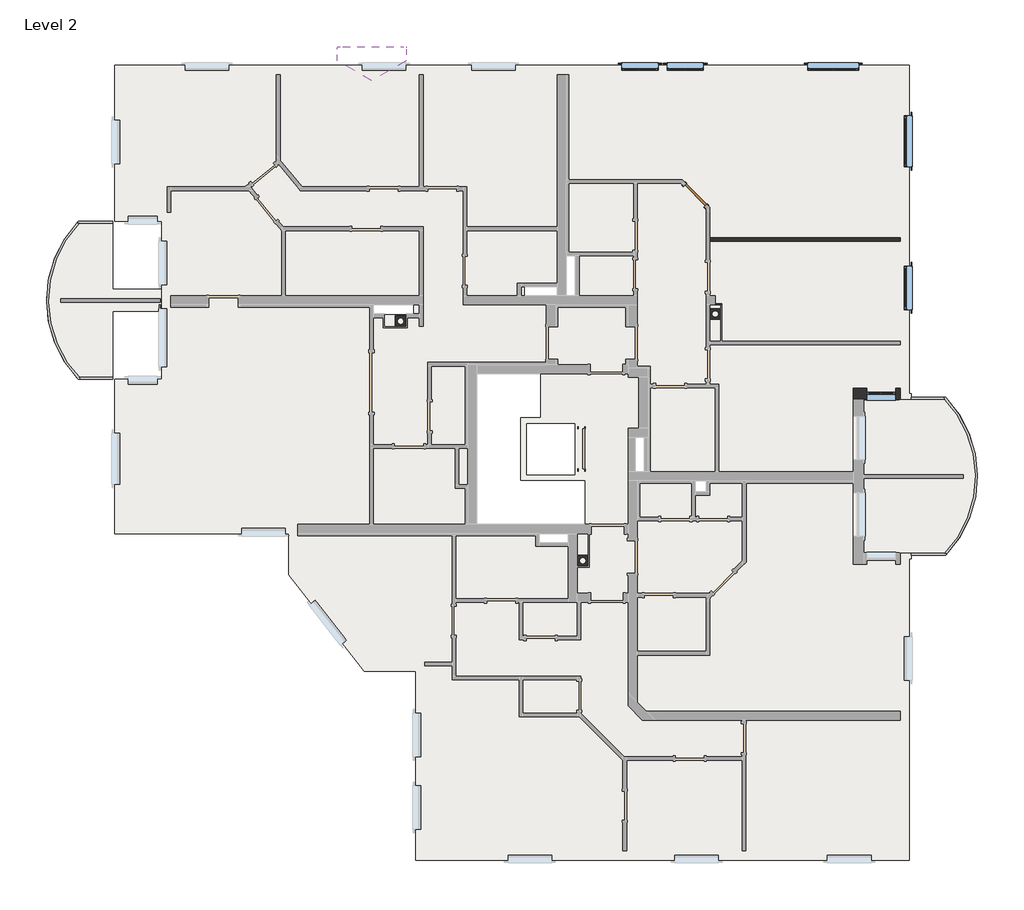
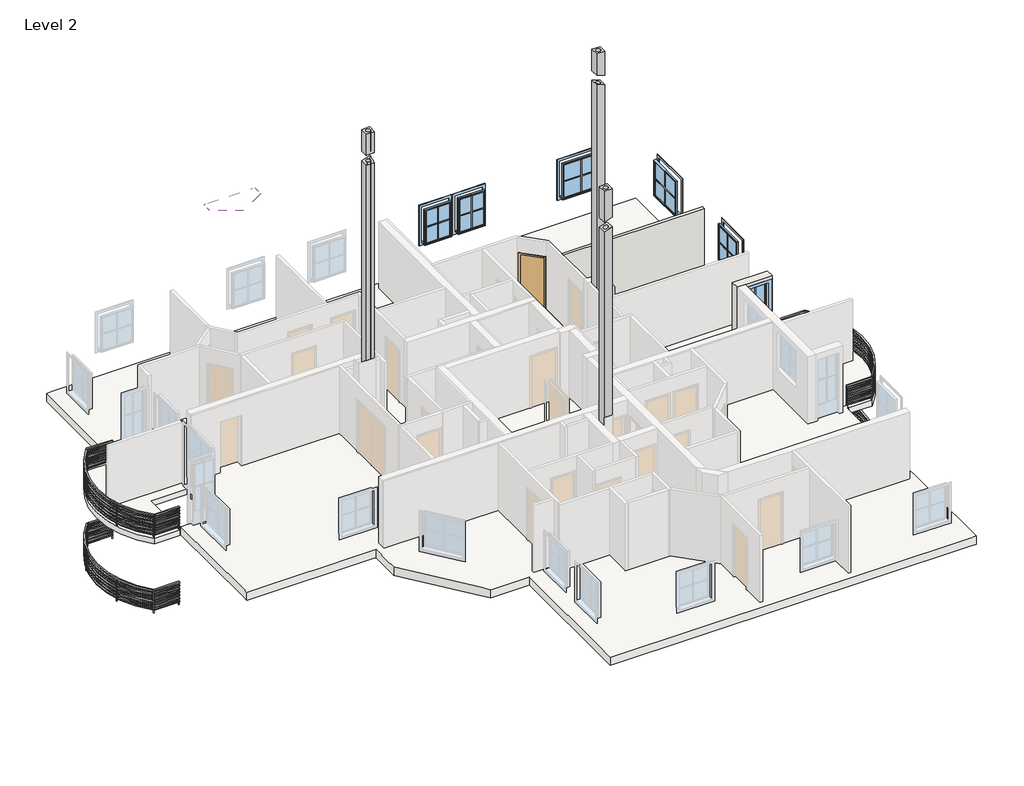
# One storey, part 4 of 4: 6 windows, 4 railings, 3 columns, 3 slabs, 3 walls, 1 door, 1 roof.
"""IFC4 building model written with IfcOpenShell, lengths in millimetres."""

from ifc_helpers import new_model, si_unit, point, frame, frame_2d, origin, place, context, project, spatial, polyline, circle_curve, ellipse_curve, trimmed, segment, composite_curve, outline, extrude, faceted_brep, transform, mapped, element, save
from ifc_brep_helpers import plane_surface, cylinder_surface, revolved_surface, advanced_brep
from components import standard_door_sd_800x2000_80f4ff25, railing_900mm_pipe_d0f322aa, railing_900mm_pipe_71d0ca38, railing_900mm_pipe_00438126, railing_900mm_pipe_7ffbcec4, standard_window_with_mullions_d3525f46, standard_window_with_mullions_80486b60, standard_window_with_mullions_12e20a72, window_2_4fa60929

model = new_model("IFC4")

# Units and contexts
model_context = context("Model", 3, world=origin())
ifc_project = project(units=[si_unit("LENGTHUNIT", "METRE", prefix="MILLI")], contexts=[model_context])

# Site, building, storey
site = spatial("IfcSite", under=ifc_project)
building = spatial("IfcBuilding", under=site)
storey = spatial("IfcBuildingStorey", under=building, Name="Level 2", Elevation=5900.0)

# Columns
placement = place(None, origin())
element("IfcColumn", 1, ObjectType="AT Kamin : 300/300/160", at=placement, inside=storey, context=model_context, shape_type="AdvancedBrep", body=[
    advanced_brep(
    [(-4557.1962165, 3917.6290541, 17750.0), (-4857.1962165, 3917.6290541, 17750.0), (-4857.1962165, 3617.6290541, 17750.0), (-4557.1962165, 3617.6290541, 17750.0), (-4787.1962165, 3767.6290541, 17750.0), (-4627.1962165, 3767.6290541, 17750.0), (-4557.1962165, 3917.6290541, 17000.1974097), (-4857.1962165, 3917.6290541, 16902.7215009), (-4857.1962165, 3617.6290541, 16902.7215009), (-4841.2600407, 3617.6290541, 16907.8994783), (-4557.1962165, 3617.6290541, 16907.8994783), (-4557.1962165, 3901.6928783, 17000.1974097), (-4787.1962165, 3767.6290541, 16925.4658796), (-4643.223579, 3815.6655158, 16972.2454252), (-4627.1962165, 3767.6290541, 16956.6374327), (-4755.2326782, 3703.6564166, 16935.8514628)],
    [
        (0, 1),
        (1, 2),
        (2, 3),
        (3, 0),
        (4, 5, circle_curve(frame((-4707.1962165, 3767.6290541, 17750.0), z_axis=(0.0, 0.0, -1.0), x_axis=(1.0, 0.0, 0.0)), 80.0)),
        (5, 4, circle_curve(frame((-4707.1962165, 3767.6290541, 17750.0), z_axis=(0.0, 0.0, -1.0), x_axis=(1.0, 0.0, 0.0)), 80.0)),
        (0, 6),
        (6, 7),
        (7, 1),
        (7, 8),
        (8, 2),
        (8, 9),
        (9, 10),
        (10, 3),
        (10, 11),
        (11, 6),
        (4, 12),
        (12, 13, ellipse_curve(frame((-4707.1962165, 3767.6290541, 16951.4594553), z_axis=(0.30901699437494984, 0.0, -0.9510565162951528), x_axis=(-0.9510565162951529, 0.0, -0.30901699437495)), 84.1169779, 80.0)),
        (13, 14, ellipse_curve(frame((-4707.1962165, 3767.6290541, 16956.6374327), z_axis=(0.0, 0.30901699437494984, -0.9510565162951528), x_axis=(0.0, -0.9510565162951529, -0.30901699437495)), 84.1169779, 80.0)),
        (14, 5),
        (14, 15, ellipse_curve(frame((-4707.1962165, 3767.6290541, 16956.6374327), z_axis=(0.0, 0.30901699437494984, -0.9510565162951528), x_axis=(0.0, -0.9510565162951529, -0.30901699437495)), 84.1169779, 80.0)),
        (15, 12, ellipse_curve(frame((-4707.1962165, 3767.6290541, 16951.4594553), z_axis=(0.30901699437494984, 0.0, -0.9510565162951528), x_axis=(-0.9510565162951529, 0.0, -0.30901699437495)), 84.1169779, 80.0)),
        (11, 13),
        (15, 9),
    ],
    [
        plane_surface(frame((-4857.1962165, 3917.6290541, 17750.0), z_axis=(0.0, 0.0, 1.0), x_axis=(-1.0, 0.0, 0.0))),
        plane_surface(frame((-4557.1962165, 3917.6290541, 17750.0), z_axis=(0.0, 1.0, 0.0), x_axis=(0.0, 0.0, -1.0))),
        plane_surface(frame((-4857.1962165, 3917.6290541, 17750.0), z_axis=(-1.0, 0.0, 0.0), x_axis=(0.0, 0.0, -1.0))),
        plane_surface(frame((-4857.1962165, 3617.6290541, 17750.0), z_axis=(0.0, -1.0, 0.0), x_axis=(0.0, 0.0, -1.0))),
        plane_surface(frame((-4557.1962165, 3617.6290541, 17750.0), z_axis=(1.0, 0.0, 0.0), x_axis=(0.0, 0.0, -1.0))),
        revolved_surface(polyline([(-4627.1962165, 3767.6290541, 16925.4658796), (-4627.1962165, 3767.6290541, 17750.0)]), (-4707.1962165, 3767.6290541, 5900.0), (0.0, 0.0, -1.0)),
        plane_surface(frame((-8021.8499172, 8372.0175181, 15874.4631818), z_axis=(0.30901699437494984, 0.0, -0.9510565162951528), x_axis=(0.0, -1.0, 0.0))),
        plane_surface(frame((-8021.8499172, 437.0391776, 15874.4631818), z_axis=(0.0, 0.30901699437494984, -0.9510565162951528), x_axis=(1.0, 0.0, 0.0))),
    ],
    [
        (0, [[1, 2, 3, 4], [5, 6]]),
        (1, [[-1, 7, 8, 9]]),
        (2, [[-2, -9, 10, 11]]),
        (3, [[-3, -11, 12, 13, 14]]),
        (4, [[-4, -14, 15, 16, -7]]),
        (5, [[-5, 17, 18, 19, 20]]),
        (5, [[-6, -20, 21, 22, -17]]),
        (6, [[23, -18, -22, 24, -12, -10, -8, -16]]),
        (7, [[-23, -15, -13, -24, -21, -19]]),
    ],
),
    advanced_brep(
    [(-4557.1962165, 3917.6290541, 5900.0), (-4557.1962165, 3617.6290541, 5900.0), (-4857.1962165, 3617.6290541, 5900.0), (-4857.1962165, 3917.6290541, 5900.0), (-4787.1962165, 3767.6290541, 5900.0), (-4627.1962165, 3767.6290541, 5900.0), (-4643.223579, 3815.6655158, 16593.7190245), (-4557.1962165, 3901.6928783, 16621.671009), (-4557.1962165, 3917.6290541, 16621.671009), (-4857.1962165, 3917.6290541, 16524.1951001), (-4857.1962165, 3617.6290541, 16524.1951001), (-4841.2600407, 3617.6290541, 16529.3730775), (-4755.2326782, 3703.6564166, 16557.325062), (-4787.1962165, 3767.6290541, 16546.9394789), (-4627.1962165, 3767.6290541, 16578.111032), (-4557.1962165, 3617.6290541, 16529.3730775)],
    [
        (0, 1),
        (1, 2),
        (2, 3),
        (3, 0),
        (4, 5, circle_curve(frame((-4707.1962165, 3767.6290541, 5900.0), z_axis=(0.0, 0.0, 1.0), x_axis=(1.0, 0.0, 0.0)), 80.0)),
        (5, 4, circle_curve(frame((-4707.1962165, 3767.6290541, 5900.0), z_axis=(0.0, 0.0, 1.0), x_axis=(1.0, 0.0, 0.0)), 80.0)),
        (6, 7),
        (7, 8),
        (8, 9),
        (9, 10),
        (10, 11),
        (11, 12),
        (12, 13, ellipse_curve(frame((-4707.1962165, 3767.6290541, 16572.9330546), z_axis=(0.30901699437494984, 0.0, -0.9510565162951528), x_axis=(-0.9510565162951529, 0.0, -0.30901699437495)), 84.1169779, 80.0)),
        (13, 6, ellipse_curve(frame((-4707.1962165, 3767.6290541, 16572.9330546), z_axis=(0.30901699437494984, 0.0, -0.9510565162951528), x_axis=(-0.9510565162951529, 0.0, -0.30901699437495)), 84.1169779, 80.0)),
        (6, 14, ellipse_curve(frame((-4707.1962165, 3767.6290541, 16578.111032), z_axis=(0.0, 0.30901699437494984, -0.9510565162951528), x_axis=(0.0, -0.9510565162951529, -0.30901699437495)), 84.1169779, 80.0)),
        (14, 12, ellipse_curve(frame((-4707.1962165, 3767.6290541, 16578.111032), z_axis=(0.0, 0.30901699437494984, -0.9510565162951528), x_axis=(0.0, -0.9510565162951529, -0.30901699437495)), 84.1169779, 80.0)),
        (11, 15),
        (15, 7),
        (3, 9),
        (8, 0),
        (2, 10),
        (1, 15),
        (5, 14),
        (13, 4),
    ],
    [
        plane_surface(frame((-4857.1962165, 3917.6290541, 5900.0), z_axis=(0.0, 0.0, -1.0), x_axis=(1.0, 0.0, 0.0))),
        plane_surface(frame((-8021.8499172, 8372.0175181, 15495.936781), z_axis=(-0.30901699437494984, 0.0, 0.9510565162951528), x_axis=(0.0, -1.0, 0.0))),
        plane_surface(frame((-8021.8499172, 437.0391776, 15495.936781), z_axis=(0.0, -0.30901699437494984, 0.9510565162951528), x_axis=(1.0, 0.0, 0.0))),
        plane_surface(frame((-4557.1962165, 3917.6290541, 17750.0), z_axis=(0.0, 1.0, 0.0), x_axis=(0.0, 0.0, -1.0))),
        plane_surface(frame((-4857.1962165, 3917.6290541, 17750.0), z_axis=(-1.0, 0.0, 0.0), x_axis=(0.0, 0.0, -1.0))),
        plane_surface(frame((-4857.1962165, 3617.6290541, 17750.0), z_axis=(0.0, -1.0, 0.0), x_axis=(0.0, 0.0, -1.0))),
        plane_surface(frame((-4557.1962165, 3617.6290541, 17750.0), z_axis=(1.0, 0.0, 0.0), x_axis=(0.0, 0.0, -1.0))),
        revolved_surface(polyline([(-4627.1962165, 3767.6290541, 5900.0), (-4627.1962165, 3767.6290541, 16604.10460768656)]), (-4707.1962165, 3767.6290541, 5900.0), (0.0, 0.0, -1.0)),
    ],
    [
        (0, [[1, 2, 3, 4], [5, 6]]),
        (1, [[7, 8, 9, 10, 11, 12, 13, 14]]),
        (2, [[-7, 15, 16, -12, 17, 18]]),
        (3, [[-4, 19, -9, 20]]),
        (4, [[-3, 21, -10, -19]]),
        (5, [[-2, 22, -17, -11, -21]]),
        (6, [[-1, -20, -8, -18, -22]]),
        (7, [[-6, 23, -15, -14, 24]]),
        (7, [[-5, -24, -13, -16, -23]]),
    ],
),
])
element("IfcColumn", 2, ObjectType="AT Kamin : 300/300/160", at=placement, inside=storey, context=model_context, shape_type="AdvancedBrep", body=[
    advanced_brep(
    [(463.5618728, -2682.3709459, 17750.0), (163.5618728, -2682.3709459, 17750.0), (163.5618728, -2982.3709459, 17750.0), (463.5618728, -2982.3709459, 17750.0), (233.5618728, -2832.3709459, 17750.0), (393.5618728, -2832.3709459, 17750.0), (463.5618728, -2682.3709459, 16623.4506996), (163.5618728, -2682.3709459, 16525.9747908), (163.5618728, -2982.3709459, 16525.9747908), (463.5618728, -2982.3709459, 16623.4506996), (233.5618728, -2832.3709459, 16548.7191695), (393.5618728, -2832.3709459, 16600.7063209)],
    [
        (0, 1),
        (1, 2),
        (2, 3),
        (3, 0),
        (4, 5, circle_curve(frame((313.5618728, -2832.3709459, 17750.0), z_axis=(0.0, 0.0, -1.0), x_axis=(1.0, 0.0, 0.0)), 80.0)),
        (5, 4, circle_curve(frame((313.5618728, -2832.3709459, 17750.0), z_axis=(0.0, 0.0, -1.0), x_axis=(1.0, 0.0, 0.0)), 80.0)),
        (0, 6),
        (6, 7),
        (7, 1),
        (7, 8),
        (8, 2),
        (8, 9),
        (9, 3),
        (9, 6),
        (4, 10),
        (10, 11, ellipse_curve(frame((313.5618728, -2832.3709459, 16574.7127452), z_axis=(0.30901699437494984, 0.0, -0.9510565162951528), x_axis=(-0.9510565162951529, 0.0, -0.30901699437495)), 84.1169779, 80.0)),
        (11, 5),
        (11, 10, ellipse_curve(frame((313.5618728, -2832.3709459, 16574.7127452), z_axis=(0.30901699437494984, 0.0, -0.9510565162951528), x_axis=(-0.9510565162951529, 0.0, -0.30901699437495)), 84.1169779, 80.0)),
    ],
    [
        plane_surface(frame((163.5618728, -2682.3709459, 17750.0), z_axis=(0.0, 0.0, 1.0), x_axis=(-1.0, 0.0, 0.0))),
        plane_surface(frame((463.5618728, -2682.3709459, 17750.0), z_axis=(0.0, 1.0, 0.0), x_axis=(0.0, 0.0, -1.0))),
        plane_surface(frame((163.5618728, -2682.3709459, 17750.0), z_axis=(-1.0, 0.0, 0.0), x_axis=(0.0, 0.0, -1.0))),
        plane_surface(frame((163.5618728, -2982.3709459, 17750.0), z_axis=(0.0, -1.0, 0.0), x_axis=(0.0, 0.0, -1.0))),
        plane_surface(frame((463.5618728, -2982.3709459, 17750.0), z_axis=(1.0, 0.0, 0.0), x_axis=(0.0, 0.0, -1.0))),
        revolved_surface(polyline([(393.5618728, -2832.3709459, 16548.7191695), (393.5618728, -2832.3709459, 17750.0)]), (313.5618728, -2832.3709459, 5900.0), (0.0, 0.0, -1.0)),
        plane_surface(frame((-1841.5846805, 437.0391776, 15874.4631818), z_axis=(0.30901699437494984, 0.0, -0.9510565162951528), x_axis=(0.0, -1.0, 0.0))),
    ],
    [
        (0, [[1, 2, 3, 4], [5, 6]]),
        (1, [[-1, 7, 8, 9]]),
        (2, [[-2, -9, 10, 11]]),
        (3, [[-3, -11, 12, 13]]),
        (4, [[-4, -13, 14, -7]]),
        (5, [[-5, 15, 16, 17]]),
        (5, [[-6, -17, 18, -15]]),
        (6, [[-8, -14, -12, -10], [-16, -18]]),
    ],
),
    advanced_brep(
    [(463.5618728, -2682.3709459, 5900.0), (463.5618728, -2982.3709459, 5900.0), (163.5618728, -2982.3709459, 5900.0), (163.5618728, -2682.3709459, 5900.0), (233.5618728, -2832.3709459, 5900.0), (393.5618728, -2832.3709459, 5900.0), (463.5618728, -2682.3709459, 16244.9242989), (163.5618728, -2682.3709459, 16147.44839), (163.5618728, -2982.3709459, 16147.44839), (463.5618728, -2982.3709459, 16244.9242989), (233.5618728, -2832.3709459, 16170.1927688), (393.5618728, -2832.3709459, 16222.1799202)],
    [
        (0, 1),
        (1, 2),
        (2, 3),
        (3, 0),
        (4, 5, circle_curve(frame((313.5618728, -2832.3709459, 5900.0), z_axis=(0.0, 0.0, 1.0), x_axis=(1.0, 0.0, 0.0)), 80.0)),
        (5, 4, circle_curve(frame((313.5618728, -2832.3709459, 5900.0), z_axis=(0.0, 0.0, 1.0), x_axis=(1.0, 0.0, 0.0)), 80.0)),
        (6, 7),
        (7, 8),
        (8, 9),
        (9, 6),
        (10, 11, ellipse_curve(frame((313.5618728, -2832.3709459, 16196.1863445), z_axis=(0.30901699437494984, 0.0, -0.9510565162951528), x_axis=(-0.9510565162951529, 0.0, -0.30901699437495)), 84.1169779, 80.0)),
        (11, 10, ellipse_curve(frame((313.5618728, -2832.3709459, 16196.1863445), z_axis=(0.30901699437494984, 0.0, -0.9510565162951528), x_axis=(-0.9510565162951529, 0.0, -0.30901699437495)), 84.1169779, 80.0)),
        (3, 7),
        (6, 0),
        (2, 8),
        (1, 9),
        (5, 11),
        (10, 4),
    ],
    [
        plane_surface(frame((163.5618728, -2682.3709459, 5900.0), z_axis=(0.0, 0.0, -1.0), x_axis=(1.0, 0.0, 0.0))),
        plane_surface(frame((-1841.5846805, 437.0391776, 15495.936781), z_axis=(-0.30901699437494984, 0.0, 0.9510565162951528), x_axis=(0.0, -1.0, 0.0))),
        plane_surface(frame((463.5618728, -2682.3709459, 17750.0), z_axis=(0.0, 1.0, 0.0), x_axis=(0.0, 0.0, -1.0))),
        plane_surface(frame((163.5618728, -2682.3709459, 17750.0), z_axis=(-1.0, 0.0, 0.0), x_axis=(0.0, 0.0, -1.0))),
        plane_surface(frame((163.5618728, -2982.3709459, 17750.0), z_axis=(0.0, -1.0, 0.0), x_axis=(0.0, 0.0, -1.0))),
        plane_surface(frame((463.5618728, -2982.3709459, 17750.0), z_axis=(1.0, 0.0, 0.0), x_axis=(0.0, 0.0, -1.0))),
        revolved_surface(polyline([(393.5618728, -2832.3709459, 5900.0), (393.5618728, -2832.3709459, 16222.1799202)]), (313.5618728, -2832.3709459, 5900.0), (0.0, 0.0, -1.0)),
    ],
    [
        (0, [[1, 2, 3, 4], [5, 6]]),
        (1, [[7, 8, 9, 10], [11, 12]]),
        (2, [[-4, 13, -7, 14]]),
        (3, [[-3, 15, -8, -13]]),
        (4, [[-2, 16, -9, -15]]),
        (5, [[-1, -14, -10, -16]]),
        (6, [[-6, 17, -11, 18]]),
        (6, [[-5, -18, -12, -17]]),
    ],
),
])
element("IfcColumn", 3, ObjectType="AT Kamin : 300/300/160", at=placement, inside=storey, context=model_context, shape_type="AdvancedBrep", body=[
    advanced_brep(
    [(4112.8037835, 4116.2076978, 17750.0), (3812.8037835, 4116.2076978, 17750.0), (3812.8037835, 3816.2076978, 17750.0), (4112.8037835, 3816.2076978, 17750.0), (3882.8037835, 3966.2076978, 17750.0), (4042.8037835, 3966.2076978, 17750.0), (4112.8037835, 4116.2076978, 16807.8848523), (3812.8037835, 4116.2076978, 16905.3607612), (3812.8037835, 3816.2076978, 16905.3607612), (4112.8037835, 3816.2076978, 16807.8848523), (3882.8037835, 3966.2076978, 16882.6163825), (4042.8037835, 3966.2076978, 16830.6292311)],
    [
        (0, 1),
        (1, 2),
        (2, 3),
        (3, 0),
        (4, 5, circle_curve(frame((3962.8037835, 3966.2076978, 17750.0), z_axis=(0.0, 0.0, -1.0), x_axis=(1.0, 0.0, 0.0)), 80.0)),
        (5, 4, circle_curve(frame((3962.8037835, 3966.2076978, 17750.0), z_axis=(0.0, 0.0, -1.0), x_axis=(1.0, 0.0, 0.0)), 80.0)),
        (0, 6),
        (6, 7),
        (7, 1),
        (7, 8),
        (8, 2),
        (8, 9),
        (9, 3),
        (9, 6),
        (4, 10),
        (10, 11, ellipse_curve(frame((3962.8037835, 3966.2076978, 16856.6228068), z_axis=(-0.30901699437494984, 0.0, -0.9510565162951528), x_axis=(0.9510565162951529, 0.0, -0.30901699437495)), 84.1169779, 80.0)),
        (11, 5),
        (11, 10, ellipse_curve(frame((3962.8037835, 3966.2076978, 16856.6228068), z_axis=(-0.30901699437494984, 0.0, -0.9510565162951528), x_axis=(0.9510565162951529, 0.0, -0.30901699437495)), 84.1169779, 80.0)),
    ],
    [
        plane_surface(frame((3812.8037835, 4116.2076978, 17750.0), z_axis=(0.0, 0.0, 1.0), x_axis=(-1.0, 0.0, 0.0))),
        plane_surface(frame((4112.8037835, 4116.2076978, 17750.0), z_axis=(0.0, 1.0, 0.0), x_axis=(0.0, 0.0, -1.0))),
        plane_surface(frame((3812.8037835, 4116.2076978, 17750.0), z_axis=(-1.0, 0.0, 0.0), x_axis=(0.0, 0.0, -1.0))),
        plane_surface(frame((3812.8037835, 3816.2076978, 17750.0), z_axis=(0.0, -1.0, 0.0), x_axis=(0.0, 0.0, -1.0))),
        plane_surface(frame((4112.8037835, 3816.2076978, 17750.0), z_axis=(1.0, 0.0, 0.0), x_axis=(0.0, 0.0, -1.0))),
        revolved_surface(polyline([(4042.8037835, 3966.2076978, 16830.6292311), (4042.8037835, 3966.2076978, 17750.0)]), (3962.8037835, 3966.2076978, 5900.0), (0.0, 0.0, -1.0)),
        plane_surface(frame((6985.5802922, -11532.3709459, 15874.4631818), z_axis=(-0.30901699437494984, 0.0, -0.9510565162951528), x_axis=(0.0, 1.0, 0.0))),
    ],
    [
        (0, [[1, 2, 3, 4], [5, 6]]),
        (1, [[-1, 7, 8, 9]]),
        (2, [[-2, -9, 10, 11]]),
        (3, [[-3, -11, 12, 13]]),
        (4, [[-4, -13, 14, -7]]),
        (5, [[-5, 15, 16, 17]]),
        (5, [[-6, -17, 18, -15]]),
        (6, [[-8, -14, -12, -10], [-16, -18]]),
    ],
),
    advanced_brep(
    [(4112.8037835, 4116.2076978, 5900.0), (4112.8037835, 3816.2076978, 5900.0), (3812.8037835, 3816.2076978, 5900.0), (3812.8037835, 4116.2076978, 5900.0), (3882.8037835, 3966.2076978, 5900.0), (4042.8037835, 3966.2076978, 5900.0), (4112.8037835, 4116.2076978, 16429.3584516), (3812.8037835, 4116.2076978, 16526.8343605), (3812.8037835, 3816.2076978, 16526.8343605), (4112.8037835, 3816.2076978, 16429.3584516), (3882.8037835, 3966.2076978, 16504.0899817), (4042.8037835, 3966.2076978, 16452.1028303)],
    [
        (0, 1),
        (1, 2),
        (2, 3),
        (3, 0),
        (4, 5, circle_curve(frame((3962.8037835, 3966.2076978, 5900.0), z_axis=(0.0, 0.0, 1.0), x_axis=(1.0, 0.0, 0.0)), 80.0)),
        (5, 4, circle_curve(frame((3962.8037835, 3966.2076978, 5900.0), z_axis=(0.0, 0.0, 1.0), x_axis=(1.0, 0.0, 0.0)), 80.0)),
        (6, 7),
        (7, 8),
        (8, 9),
        (9, 6),
        (10, 11, ellipse_curve(frame((3962.8037835, 3966.2076978, 16478.096406), z_axis=(-0.30901699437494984, 0.0, -0.9510565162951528), x_axis=(0.9510565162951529, 0.0, -0.30901699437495)), 84.1169779, 80.0)),
        (11, 10, ellipse_curve(frame((3962.8037835, 3966.2076978, 16478.096406), z_axis=(-0.30901699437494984, 0.0, -0.9510565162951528), x_axis=(0.9510565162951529, 0.0, -0.30901699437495)), 84.1169779, 80.0)),
        (3, 7),
        (6, 0),
        (2, 8),
        (1, 9),
        (5, 11),
        (10, 4),
    ],
    [
        plane_surface(frame((3812.8037835, 4116.2076978, 5900.0), z_axis=(0.0, 0.0, -1.0), x_axis=(1.0, 0.0, 0.0))),
        plane_surface(frame((6985.5802922, -11532.3709459, 15495.936781), z_axis=(0.30901699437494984, 0.0, 0.9510565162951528), x_axis=(0.0, 1.0, 0.0))),
        plane_surface(frame((4112.8037835, 4116.2076978, 17750.0), z_axis=(0.0, 1.0, 0.0), x_axis=(0.0, 0.0, -1.0))),
        plane_surface(frame((3812.8037835, 4116.2076978, 17750.0), z_axis=(-1.0, 0.0, 0.0), x_axis=(0.0, 0.0, -1.0))),
        plane_surface(frame((3812.8037835, 3816.2076978, 17750.0), z_axis=(0.0, -1.0, 0.0), x_axis=(0.0, 0.0, -1.0))),
        plane_surface(frame((4112.8037835, 3816.2076978, 17750.0), z_axis=(1.0, 0.0, 0.0), x_axis=(0.0, 0.0, -1.0))),
        revolved_surface(polyline([(4042.8037835, 3966.2076978, 5900.0), (4042.8037835, 3966.2076978, 16504.0899817)]), (3962.8037835, 3966.2076978, 5900.0), (0.0, 0.0, -1.0)),
    ],
    [
        (0, [[1, 2, 3, 4], [5, 6]]),
        (1, [[7, 8, 9, 10], [11, 12]]),
        (2, [[-4, 13, -7, 14]]),
        (3, [[-3, 15, -8, -13]]),
        (4, [[-2, 16, -9, -15]]),
        (5, [[-1, -14, -10, -16]]),
        (6, [[-6, 17, -11, 18]]),
        (6, [[-5, -18, -12, -17]]),
    ],
),
])

# Door
standard_door_sd_800x2000_shape = standard_door_sd_800x2000_80f4ff25(model_context)
element("IfcDoor", 4, ObjectType="Standard Door : SD 800x2000", at=placement, inside=storey, context=model_context, shape_type="MappedRepresentation", body=[
    mapped(standard_door_sd_800x2000_shape, transform((3410.8458954, 7240.2976203, 5900.0), x_axis=(0.7071067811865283, -0.7071067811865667, 0.0), y_axis=(0.7071067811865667, 0.7071067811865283, 0.0), z_axis=(0.0, 0.0, 1.0))),
])

# Railings
railing_900mm_pipe_shape = railing_900mm_pipe_d0f322aa(model_context)
element("IfcRailing", 5, ObjectType="900mm Pipe", at=placement, inside=storey, context=model_context, shape_type="MappedRepresentation", body=[
    mapped(railing_900mm_pipe_shape, transform((0.0, 0.0, 0.0), x_axis=(1.0, 0.0, 0.0), y_axis=(0.0, 1.0, 0.0), z_axis=(0.0, 0.0, 1.0))),
])
railing_900mm_pipe_2_shape = railing_900mm_pipe_71d0ca38(model_context)
element("IfcRailing", 6, ObjectType="900mm Pipe", at=placement, inside=storey, context=model_context, shape_type="MappedRepresentation", body=[
    mapped(railing_900mm_pipe_2_shape, transform((0.0, 0.0, 0.0), x_axis=(1.0, 0.0, 0.0), y_axis=(0.0, 1.0, 0.0), z_axis=(0.0, 0.0, 1.0))),
])
railing_900mm_pipe_3_shape = railing_900mm_pipe_00438126(model_context)
element("IfcRailing", 7, ObjectType="900mm Pipe", at=placement, inside=storey, context=model_context, shape_type="MappedRepresentation", body=[
    mapped(railing_900mm_pipe_3_shape, transform((0.0, 0.0, 0.0), x_axis=(1.0, 0.0, 0.0), y_axis=(0.0, 1.0, 0.0), z_axis=(0.0, 0.0, 1.0))),
])
railing_900mm_pipe_4_shape = railing_900mm_pipe_7ffbcec4(model_context)
element("IfcRailing", 8, ObjectType="900mm Pipe", at=placement, inside=storey, context=model_context, shape_type="MappedRepresentation", body=[
    mapped(railing_900mm_pipe_4_shape, transform((0.0, 0.0, 0.0), x_axis=(1.0, 0.0, 0.0), y_axis=(0.0, 1.0, 0.0), z_axis=(0.0, 0.0, 1.0))),
])

# Roof
element("IfcRoof", 9, ObjectType="Dormer", at=placement, inside=storey, context=model_context, shape_type="Brep", body=[
    faceted_brep([(-6450.2469102, 11337.6290541, 10859.1168825), (-6450.2469102, 11337.6290541, 11412.1320344), (-5500.2469102, 11337.6290541, 12362.1320344), (-4550.2469102, 11337.6290541, 11412.1320344), (-4550.2469102, 11337.6290541, 10859.1168825), (-4700.2469102, 11337.6290541, 10859.1168825), (-4700.2469102, 11337.6290541, 11350.0), (-5500.2469102, 11337.6290541, 12150.0), (-6300.2469102, 11337.6290541, 11350.0), (-6300.2469102, 11337.6290541, 10859.1168825), (-6450.2469102, 11267.6290541, 10859.1168825), (-6450.2469102, 10948.3456073, 11412.1320344), (-5500.2469102, 10399.8628515, 12362.1320344), (-4550.2469102, 10948.3456073, 11412.1320344), (-4550.2469102, 11267.6290541, 10859.1168825), (-4700.2469102, 11267.6290541, 10859.1168825), (-4700.2469102, 10984.217554, 11350.0), (-5500.2469102, 10522.3373387, 12150.0), (-6300.2469102, 10984.217554, 11350.0), (-6300.2469102, 11267.6290541, 10859.1168825)], [[[0, 1, 2, 3, 4, 5, 6, 7, 8, 9]], [[1, 0, 10, 11]], [[2, 1, 11, 12]], [[3, 2, 12, 13]], [[4, 3, 13, 14]], [[5, 4, 14, 15]], [[6, 5, 15, 16]], [[7, 6, 16, 17]], [[8, 7, 17, 18]], [[9, 8, 18, 19]], [[0, 9, 19, 10]], [[10, 19, 18, 17, 16, 15, 14, 13, 12, 11]]]),
])

# Slabs
element("IfcSlab", 10, ObjectType="Concrete", at=placement, inside=storey, context=model_context, shape_type="SweptSolid", body=[
    extrude(outline(composite_curve([segment(trimmed(circle_curve(frame_2d((-11337.1962165, 4342.6290541)), 3128.236703), [point((-13585.5822754, 2167.6290541))], [point((-13585.5822754, 6517.6290541))], False, "CARTESIAN"), True, "CONTINUOUS"), segment(polyline([(-13585.5822754, 6517.6290541), (-12637.1962165, 6517.6290541), (-12637.1962165, 4647.6290541), (-11287.1962165, 4647.6290541), (-11287.1962165, 4037.6290541), (-12637.1962165, 4037.6290541), (-12637.1962165, 2167.6290541), (-13585.5822754, 2167.6290541)]), True, "CONTINUOUS")], self_intersect=False)), frame((0.0, 0.0, 5580.0), z_axis=(0.0, 0.0, 1.0), x_axis=(1.0, 0.0, 0.0)), (0.0, 0.0, 1.0), 220.0),
])
element("IfcSlab", 11, ObjectType="Concrete", at=placement, inside=storey, context=model_context, shape_type="AdvancedBrep", body=[
    advanced_brep(
    [(10311.1898424, 1667.6290541, 5580.0), (10311.1898424, -2682.3709459, 5580.0), (9362.8037835, -2682.3709459, 5580.0), (8012.8037835, -2682.3709459, 5580.0), (8012.8037835, 1667.6290541, 5580.0), (9362.8037835, 1667.6290541, 5580.0), (10311.1898424, 1667.6290541, 5800.0), (9362.8037835, 1667.6290541, 5800.0), (8012.8037835, 1667.6290541, 5800.0), (8012.8037835, -2682.3709459, 5800.0), (9362.8037835, -2682.3709459, 5800.0), (10311.1898424, -2682.3709459, 5800.0)],
    [
        (0, 1, circle_curve(frame((8062.8037835, -507.3709459, 5580.0), z_axis=(0.0, 0.0, -1.0), x_axis=(1.0, 0.0, 0.0)), 3128.236703)),
        (1, 2),
        (2, 3),
        (3, 4),
        (4, 5),
        (5, 0),
        (6, 7),
        (7, 8),
        (8, 9),
        (9, 10),
        (10, 11),
        (11, 6, circle_curve(frame((8062.8037835, -507.3709459, 5800.0), z_axis=(0.0, 0.0, 1.0), x_axis=(1.0, 0.0, 0.0)), 3128.236703)),
        (0, 6),
        (11, 1),
        (9, 3),
        (8, 4),
    ],
    [
        plane_surface(frame((11191.0404865, -507.3709459, 5580.0), z_axis=(0.0, 0.0, -1.0), x_axis=(0.0, -1.0, 0.0))),
        plane_surface(frame((11191.0404865, -507.3709459, 5800.0), z_axis=(0.0, 0.0, 1.0), x_axis=(0.0, 1.0, 0.0))),
        cylinder_surface(frame((8062.8037835, -507.3709459, 5800.0), z_axis=(0.0, 0.0, -1.0), x_axis=(1.0, 0.0, 0.0)), 3128.236703),
        plane_surface(frame((10311.1898424, -2682.3709459, 5580.0), z_axis=(0.0, -1.0, 0.0), x_axis=(0.0, 0.0, 1.0))),
        plane_surface(frame((8012.8037835, -2682.3709459, 5580.0), z_axis=(-1.0, 0.0, 0.0), x_axis=(0.0, 0.0, 1.0))),
        plane_surface(frame((8012.8037835, 1667.6290541, 5580.0), z_axis=(0.0, 1.0, 0.0), x_axis=(0.0, 0.0, 1.0))),
    ],
    [
        (0, [[1, 2, 3, 4, 5, 6]]),
        (1, [[7, 8, 9, 10, 11, 12]]),
        (2, [[-1, 13, -12, 14]]),
        (3, [[-3, -2, -14, -11, -10, 15]]),
        (4, [[-4, -15, -9, 16]]),
        (5, [[-6, -5, -16, -8, -7, -13]]),
    ],
),
])
element("IfcSlab", 12, ObjectType="STB200 + 120", at=placement, inside=storey, context=model_context, shape_type="Brep", body=[
    faceted_brep([(9312.8037835, 10817.6290541, 5580.0), (9312.8037835, 10567.6290541, 5580.0), (9312.8037835, 1767.6290541, 5580.0), (9362.8037835, 1767.6290541, 5580.0), (9362.8037835, 1667.6290541, 5580.0), (8012.8037835, 1667.6290541, 5580.0), (8012.8037835, -2682.3709459, 5580.0), (9362.8037835, -2682.3709459, 5580.0), (9362.8037835, -2782.3709459, 5580.0), (9312.8037835, -2782.3709459, 5580.0), (9312.8037835, -2932.3709459, 5580.0), (9312.8037835, -11082.3709459, 5580.0), (9062.8037835, -11082.3709459, 5580.0), (-4287.1962165, -11082.3709459, 5580.0), (-4287.1962165, -10832.3709459, 5580.0), (-4287.1962165, -5882.3709459, 5580.0), (-4337.1962165, -5882.3709459, 5580.0), (-5712.7420262, -5882.3709459, 5580.0), (-5907.1864707, -5632.3709459, 5580.0), (-7787.1962165, -3215.2155584, 5580.0), (-7787.1962165, -2808.0100494, 5580.0), (-7787.1962165, -2082.3709459, 5580.0), (-7837.1962165, -2082.3709459, 5580.0), (-12587.1962165, -2082.3709459, 5580.0), (-12587.1962165, -1832.3709459, 5580.0), (-12587.1962165, 2167.6290541, 5580.0), (-12337.1962165, 2167.6290541, 5580.0), (-11287.1962165, 2167.6290541, 5580.0), (-11287.1962165, 2217.6290541, 5580.0), (-11287.1962165, 4037.6290541, 5580.0), (-11287.1962165, 4647.6290541, 5580.0), (-11287.1962165, 6467.6290541, 5580.0), (-11287.1962165, 6517.6290541, 5580.0), (-12587.1962165, 6517.6290541, 5580.0), (-12587.1962165, 6767.6290541, 5580.0), (-12587.1962165, 10817.6290541, 5580.0), (-12337.1962165, 10817.6290541, 5580.0), (-2607.1962165, 2317.6290541, 5580.0), (-2607.1962165, -1832.3709459, 5580.0), (362.8037835, -1832.3709459, 5580.0), (362.8037835, -632.3709459, 5580.0), (-1407.1962165, -632.3709459, 5580.0), (-1407.1962165, 1117.6290541, 5580.0), (-857.1962165, 1117.6290541, 5580.0), (-857.1962165, 2317.6290541, 5580.0), (-387.1962165, 4717.6290541, 5580.0), (-1287.1962165, 4717.6290541, 5580.0), (-1287.1962165, 4467.6290541, 5580.0), (-387.1962165, 4467.6290541, 5580.0), (112.8037835, 4467.6290541, 5580.0), (112.8037835, 5567.6290541, 5580.0), (-137.1962165, 5567.6290541, 5580.0), (-137.1962165, 4467.6290541, 5580.0), (-4357.1962165, 4217.6290541, 5580.0), (-5457.1962165, 4217.6290541, 5580.0), (-5457.1962165, 3967.6290541, 5580.0), (-4357.1962165, 3967.6290541, 5580.0), (2012.8037835, 567.6290541, 5580.0), (1762.8087381, 567.6290541, 5580.0), (1762.8087381, -382.3709459, 5580.0), (2012.8037835, -382.3709459, 5580.0), (3712.8037835, -632.3709459, 5580.0), (3412.8037835, -632.3709459, 5580.0), (3412.8037835, -932.3709459, 5580.0), (3712.8037835, -932.3709459, 5580.0), (-86.4381272, -2082.3709459, 5580.0), (-886.4381272, -2082.3709459, 5580.0), (-886.4381272, -2332.3709459, 5580.0), (-86.4381272, -2332.3709459, 5580.0), (87.8037835, 947.6290541, 5580.0), (-1237.1962165, 947.6290541, 5580.0), (-1237.1962165, -462.3709459, 5580.0), (87.8037835, -462.3709459, 5580.0), (9312.8037835, 1767.6290541, 5900.0), (9312.8037835, 10567.6290541, 5900.0), (9312.8037835, 10817.6290541, 5900.0), (-12337.1962165, 10817.6290541, 5900.0), (-12587.1962165, 10817.6290541, 5900.0), (-12587.1962165, 6767.6290541, 5900.0), (-12587.1962165, 6517.6290541, 5900.0), (-12207.370388, 6517.6290541, 5900.0), (-11407.370388, 6517.6290541, 5900.0), (-11287.1962165, 6517.6290541, 5900.0), (-11287.1962165, 6467.6290541, 5900.0), (-11287.1962165, 4117.6290559, 5900.0), (-11287.1962165, 2517.6290559, 5900.0), (-11287.1962165, 2217.6290541, 5900.0), (-11287.1962165, 2167.6290541, 5900.0), (-11407.3703663, 2167.6290541, 5900.0), (-12207.3703663, 2167.6290541, 5900.0), (-12337.1962165, 2167.6290541, 5900.0), (-12587.1962165, 2167.6290541, 5900.0), (-12587.1962165, -1832.3709459, 5900.0), (-12587.1962165, -2082.3709459, 5900.0), (-7837.1962165, -2082.3709459, 5900.0), (-7787.1962165, -2082.3709459, 5900.0), (-7787.1962165, -2808.0100494, 5900.0), (-7787.1962165, -3215.2155584, 5900.0), (-5907.1864707, -5632.3709459, 5900.0), (-5712.7420262, -5882.3709459, 5900.0), (-4337.1962165, -5882.3709459, 5900.0), (-4287.1962165, -5882.3709459, 5900.0), (-4287.1962165, -10832.3709459, 5900.0), (-4287.1962165, -11082.3709459, 5900.0), (9062.8037835, -11082.3709459, 5900.0), (9312.8037835, -11082.3709459, 5900.0), (9312.8037835, -2932.3709459, 5900.0), (9312.8037835, -2782.3709459, 5900.0), (9362.8037835, -2782.3709459, 5900.0), (9362.8037835, -2632.3709459, 5900.0), (9062.8037835, -2632.3709459, 5900.0), (8932.977935, -2632.3709459, 5900.0), (8132.977935, -2632.3709459, 5900.0), (8062.8037835, -2632.3709459, 5900.0), (8062.8037835, 1617.6290541, 5900.0), (9062.8037835, 1617.6290541, 5900.0), (9362.8037835, 1617.6290541, 5900.0), (9362.8037835, 1767.6290541, 5900.0), (-2607.1962165, -1832.3709459, 5900.0), (-2607.1962165, 2317.6290541, 5900.0), (-857.1962165, 2317.6290541, 5900.0), (-857.1962165, 1117.6290541, 5900.0), (-1407.1962165, 1117.6290541, 5900.0), (-1407.1962165, -632.3709459, 5900.0), (362.8037835, -632.3709459, 5900.0), (362.8037835, -1832.3709459, 5900.0), (-1287.1962165, 4717.6290541, 5900.0), (-387.1962165, 4717.6290541, 5900.0), (-387.1962165, 4467.6290541, 5900.0), (-1287.1962165, 4467.6290541, 5900.0), (112.8037835, 5567.6290541, 5900.0), (112.8037835, 4467.6290541, 5900.0), (-137.1962165, 4467.6290541, 5900.0), (-137.1962165, 5567.6290541, 5900.0), (-5457.1962165, 4217.6290541, 5900.0), (-4357.1962165, 4217.6290541, 5900.0), (-4357.1962165, 3967.6290541, 5900.0), (-5457.1962165, 3967.6290541, 5900.0), (1762.8087381, 567.6290541, 5900.0), (2012.8037835, 567.6290541, 5900.0), (2012.8037835, -382.3709459, 5900.0), (1762.8087381, -382.3709459, 5900.0), (3412.8037835, -632.3709459, 5900.0), (3712.8037835, -632.3709459, 5900.0), (3712.8037835, -932.3709459, 5900.0), (3412.8037835, -932.3709459, 5900.0), (-886.4381272, -2082.3709459, 5900.0), (-86.4381272, -2082.3709459, 5900.0), (-86.4381272, -2332.3709459, 5900.0), (-886.4381272, -2332.3709459, 5900.0), (-1237.1962165, 947.6290541, 5900.0), (87.8037835, 947.6290541, 5900.0), (87.8037835, -462.3709459, 5900.0), (-1237.1962165, -462.3709459, 5900.0), (8062.8037835, 1617.6290541, 5800.0), (9362.8037835, 1617.6290541, 5800.0), (8062.8037835, -2632.3709459, 5800.0), (9362.8037835, -2632.3709459, 5800.0), (9362.8037835, 1667.6290541, 5800.0), (9362.8037835, -2682.3709459, 5800.0), (8012.8037835, -2682.3709459, 5800.0), (8012.8037835, 1667.6290541, 5800.0)], [[[0, 1, 2, 3, 4, 5, 6, 7, 8, 9, 10, 11, 12, 13, 14, 15, 16, 17, 18, 19, 20, 21, 22, 23, 24, 25, 26, 27, 28, 29, 30, 31, 32, 33, 34, 35, 36], [37, 38, 39, 40, 41, 42, 43, 44], [45, 46, 47, 48], [49, 50, 51, 52], [53, 54, 55, 56], [57, 58, 59, 60], [61, 62, 63, 64], [65, 66, 67, 68], [69, 70, 71, 72]], [[73, 74, 75, 76, 77, 78, 79, 80, 81, 82, 83, 84, 85, 86, 87, 88, 89, 90, 91, 92, 93, 94, 95, 96, 97, 98, 99, 100, 101, 102, 103, 104, 105, 106, 107, 108, 109, 110, 111, 112, 113, 114, 115, 116, 117], [118, 119, 120, 121, 122, 123, 124, 125], [126, 127, 128, 129], [130, 131, 132, 133], [134, 135, 136, 137], [138, 139, 140, 141], [142, 143, 144, 145], [146, 147, 148, 149], [150, 151, 152, 153]], [[2, 1, 0, 75, 74, 73]], [[116, 115, 114, 154, 155]], [[114, 113, 156, 154]], [[113, 112, 111, 110, 109, 157, 156]], [[11, 10, 9, 107, 106, 105]], [[13, 12, 11, 105, 104, 103]], [[15, 14, 13, 103, 102, 101]], [[17, 16, 15, 101, 100, 99]], [[19, 18, 17, 99, 98, 97]], [[21, 20, 19, 97, 96, 95]], [[23, 22, 21, 95, 94, 93]], [[25, 24, 23, 93, 92, 91]], [[27, 26, 25, 91, 90, 89, 88, 87]], [[87, 86, 85, 84, 83, 82, 32, 31, 30, 29, 28, 27]], [[33, 32, 82, 81, 80, 79]], [[35, 34, 33, 79, 78, 77]], [[0, 36, 35, 77, 76, 75]], [[38, 37, 119, 118]], [[39, 38, 118, 125]], [[40, 39, 125, 124]], [[41, 40, 124, 123]], [[42, 41, 123, 122]], [[43, 42, 122, 121]], [[44, 43, 121, 120]], [[37, 44, 120, 119]], [[46, 45, 127, 126]], [[47, 46, 126, 129]], [[48, 47, 129, 128]], [[45, 48, 128, 127]], [[50, 49, 131, 130]], [[51, 50, 130, 133]], [[52, 51, 133, 132]], [[49, 52, 132, 131]], [[54, 53, 135, 134]], [[55, 54, 134, 137]], [[56, 55, 137, 136]], [[53, 56, 136, 135]], [[58, 57, 139, 138]], [[59, 58, 138, 141]], [[60, 59, 141, 140]], [[57, 60, 140, 139]], [[62, 61, 143, 142]], [[63, 62, 142, 145]], [[64, 63, 145, 144]], [[61, 64, 144, 143]], [[66, 65, 147, 146]], [[67, 66, 146, 149]], [[68, 67, 149, 148]], [[65, 68, 148, 147]], [[3, 2, 73, 117]], [[117, 116, 155, 158, 4, 3]], [[109, 108, 8, 7, 159, 157]], [[9, 8, 108, 107]], [[70, 69, 151, 150]], [[71, 70, 150, 153]], [[72, 71, 153, 152]], [[69, 72, 152, 151]], [[160, 161, 158, 155, 154, 156, 157, 159]], [[6, 160, 159, 7]], [[161, 160, 6, 5]], [[161, 5, 4, 158]]]),
])

# Walls
element("IfcWall", 13, ObjectType="Exterior - 250+50mm", at=placement, inside=storey, context=model_context, shape_type="Brep", body=[
    faceted_brep([(9062.8037835, 1617.6290541, 5900.0), (8932.977935, 1617.6290541, 5900.0), (8932.977935, 1917.6290541, 5900.0), (9062.8037835, 1917.6290541, 5900.0), (8132.977935, 1617.6290541, 5900.0), (8062.8037835, 1617.6290541, 5900.0), (7762.8037835, 1617.6290541, 5900.0), (7762.8037835, 1917.6290541, 5900.0), (8132.977935, 1917.6290541, 5900.0), (8932.977935, 1917.6290541, 8300.0), (8132.977935, 1917.6290541, 8300.0), (7762.8037835, 1917.6290541, 8530.0), (9062.8037835, 1917.6290541, 8530.0), (8932.977935, 1617.6290541, 8300.0), (9062.8037835, 1617.6290541, 8530.0), (8062.8037835, 1617.6290541, 8530.0), (7762.8037835, 1617.6290541, 8530.0), (8132.977935, 1617.6290541, 8300.0)], [[[0, 1, 2, 3]], [[4, 5, 6, 7, 8]], [[3, 2, 9, 10, 8, 7, 11, 12]], [[13, 1, 0, 14, 15, 16, 6, 5, 4, 17]], [[11, 7, 6, 16]], [[3, 12, 14, 0]], [[12, 11, 16, 15, 14]], [[9, 2, 1, 13]], [[10, 9, 13, 17]], [[8, 10, 17, 4]]]),
])
element("IfcWall", 14, ObjectType="Interior - 100mm", at=placement, inside=storey, context=model_context, shape_type="SweptSolid", body=[
    extrude(outline(polyline([(9062.8037835, 5967.6290541), (3812.8037835, 5967.6290541), (3812.8037835, 6067.6290541), (9062.8037835, 6067.6290541), (9062.8037835, 5967.6290541)])), frame((0.0, 0.0, 5900.0), z_axis=(0.0, 0.0, 1.0), x_axis=(1.0, 0.0, 0.0)), (0.0, 0.0, 1.0), 2630.0),
])
element("IfcWall", 15, ObjectType="Interior - 300mm", at=placement, inside=storey, context=model_context, shape_type="Brep", body=[
    faceted_brep([(3962.8037835, 4217.6290541, 5900.0), (4112.8037835, 4217.6290541, 5900.0), (4142.8037835, 4217.6290541, 5900.0), (4142.8037835, 4217.6290541, 8850.0), (4112.8037835, 4217.6290541, 8850.0), (3962.8037835, 4217.6290541, 8850.0), (3962.8037835, 4217.6290541, 8530.0), (3962.8037835, 4247.6290541, 5900.0), (3962.8037835, 4247.6290541, 8850.0), (4142.8037835, 4247.6290541, 8850.0), (4142.8037835, 4247.6290541, 5900.0)], [[[0, 1, 2, 3, 4, 5, 6]], [[7, 8, 9, 10]], [[2, 1, 0, 7, 10]], [[5, 4, 3, 9, 8]], [[0, 6, 5, 8, 7]], [[3, 2, 10, 9]]]),
])

# Windows
standard_window_with_mullions_shape = standard_window_with_mullions_d3525f46(model_context)
element("IfcWindow", 16, ObjectType="Standard Window with mullions : 1400/1400", at=placement, inside=storey, context=model_context, shape_type="MappedRepresentation", body=[
    mapped(standard_window_with_mullions_shape, transform((7214.6462462, 10717.6290541, 5900.0), x_axis=(1.0, 0.0, 0.0), y_axis=(0.0, 1.0, 0.0), z_axis=(0.0, 0.0, 1.0))),
])
element("IfcWindow", 17, ObjectType="Standard Window with mullions : 1400/1400", at=placement, inside=storey, context=model_context, shape_type="MappedRepresentation", body=[
    mapped(standard_window_with_mullions_shape, transform((9212.8037835, 8725.6927772, 5900.0), x_axis=(0.0, -1.0, 0.0), y_axis=(1.0, 0.0, 0.0), z_axis=(0.0, 0.0, 1.0))),
])
standard_window_with_mullions_2_shape = standard_window_with_mullions_80486b60(model_context)
element("IfcWindow", 18, ObjectType="Standard Window with mullions : 1200/1400", at=placement, inside=storey, context=model_context, shape_type="MappedRepresentation", body=[
    mapped(standard_window_with_mullions_2_shape, transform((9212.8037835, 4688.4530256, 5900.0), x_axis=(0.0, -1.0, 0.0), y_axis=(1.0, 0.0, 0.0), z_axis=(0.0, 0.0, 1.0))),
])
standard_window_with_mullions_3_shape = standard_window_with_mullions_12e20a72(model_context)
element("IfcWindow", 19, ObjectType="Standard Window with mullions : 1000/1400", at=placement, inside=storey, context=model_context, shape_type="MappedRepresentation", body=[
    mapped(standard_window_with_mullions_3_shape, transform((1887.8037835, 10717.6290541, 5900.0), x_axis=(1.0, 0.0, 0.0), y_axis=(0.0, 1.0, 0.0), z_axis=(0.0, 0.0, 1.0))),
])
element("IfcWindow", 20, ObjectType="Standard Window with mullions : 1000/1400", at=placement, inside=storey, context=model_context, shape_type="MappedRepresentation", body=[
    mapped(standard_window_with_mullions_3_shape, transform((3137.8037835, 10717.6290541, 5900.0), x_axis=(1.0, 0.0, 0.0), y_axis=(0.0, 1.0, 0.0), z_axis=(0.0, 0.0, 1.0))),
])
window_2_shape = window_2_4fa60929(model_context)
element("IfcWindow", 21, ObjectType="Window 2 : 800/2400", at=placement, inside=storey, context=model_context, shape_type="MappedRepresentation", body=[
    mapped(window_2_shape, transform((8532.977935, 1767.6290541, 5900.0), x_axis=(-1.0, 0.0, 0.0), y_axis=(0.0, -1.0, 0.0), z_axis=(0.0, 0.0, 1.0))),
])

save(model, "model.ifc")
